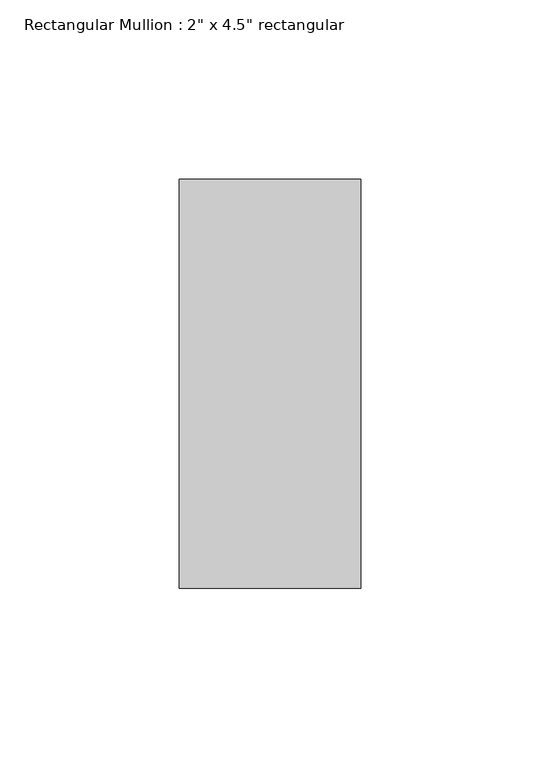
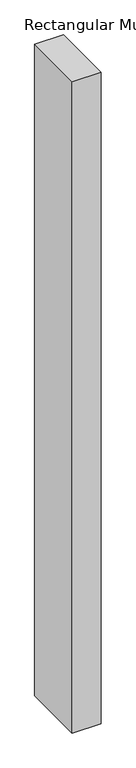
"""IFC4 building model written with IfcOpenShell, lengths in millimetres: member geometry."""

from ifc_helpers import new_model, si_unit, frame, origin, place, context, project, spatial, polyline, outline, extrude, source, transform, mapped, element, save


def member_0b71a88d(model_context):
    return source(origin(), model_context, "Body", "SweptSolid", [
        extrude(outline(polyline([(0.0, 57.15), (0.0, -57.15), (-50.8, -57.15), (-50.8, 57.15), (0.0, 57.15)])), frame((0.0, 0.0, -1211.8457216), z_axis=(0.0, 0.0, 1.0), x_axis=(1.0, 0.0, 0.0)), (0.0, 0.0, 1.0), 1211.8457216),
    ])


if __name__ == "__main__":
    model = new_model("IFC4")
    model_context = context("Model", 3, world=origin())
    ifc_project = project(units=[si_unit("LENGTHUNIT", "METRE", prefix="MILLI")], contexts=[model_context])
    site = spatial("IfcSite", under=ifc_project)
    building = spatial("IfcBuilding", under=site)
    placement = place(None, origin())
    member_shape = member_0b71a88d(model_context)
    element("IfcMember", 1, ObjectType="Rectangular Mullion : 2\" x 4.5\" rectangular", at=placement, inside=building, context=model_context, shape_type="MappedRepresentation", body=[
        mapped(member_shape, transform((0.0, 0.0, 0.0), x_axis=(1.0, 0.0, 0.0), y_axis=(0.0, 1.0, 0.0), z_axis=(0.0, 0.0, 1.0))),
    ])
    save(model, "model.ifc")
